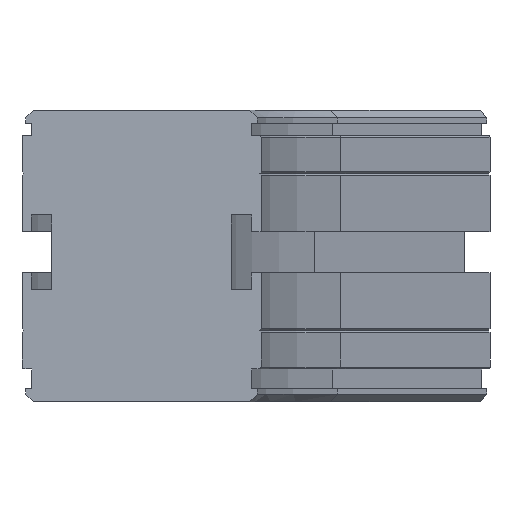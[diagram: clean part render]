
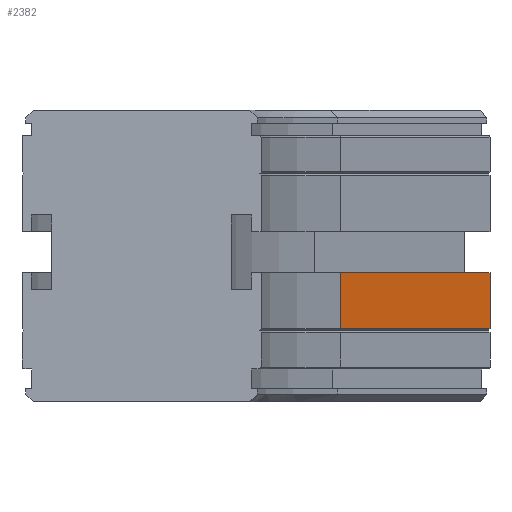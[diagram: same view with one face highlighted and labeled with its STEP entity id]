
A CAD part, left-side view. The second image highlights one B-rep face of the part: STEP entity #2382.
In plain terms, the highlighted planar face has unit normal (-0.5, -0.866, 0).
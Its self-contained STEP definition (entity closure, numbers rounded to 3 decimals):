
#2326=CARTESIAN_POINT('',(228.782,-93.302,-58.5));
#2327=VERTEX_POINT('',#2326);
#2334=CARTESIAN_POINT('',(159.5,-53.302,-58.5));
#2335=VERTEX_POINT('',#2334);
#2336=CARTESIAN_POINT('',(159.5,-53.302,-58.5));
#2337=DIRECTION('',(0.866,-0.5,0.0));
#2338=VECTOR('',#2337,80.);
#2339=LINE('',#2336,#2338);
#2340=EDGE_CURVE('',#2335,#2327,#2339,.T.);
#2352=CARTESIAN_POINT('',(159.5,-53.302,-58.5));
#2353=DIRECTION('',(-0.5,-0.866,0.));
#2354=DIRECTION('',(0.0,0.0,-1.0));
#2355=AXIS2_PLACEMENT_3D('',#2352,#2353,#2354);
#2356=PLANE('',#2355);
#2357=CARTESIAN_POINT('',(228.782,-93.302,-43.5));
#2358=VERTEX_POINT('',#2357);
#2359=CARTESIAN_POINT('',(228.782,-93.302,-58.5));
#2360=DIRECTION('',(0.0,0.0,1.0));
#2361=VECTOR('',#2360,15.);
#2362=LINE('',#2359,#2361);
#2363=EDGE_CURVE('',#2327,#2358,#2362,.T.);
#2364=ORIENTED_EDGE('',*,*,#2363,.T.);
#2365=CARTESIAN_POINT('',(159.5,-53.302,-43.5));
#2366=VERTEX_POINT('',#2365);
#2367=CARTESIAN_POINT('',(159.5,-53.302,-43.5));
#2368=DIRECTION('',(0.866,-0.5,0.0));
#2369=VECTOR('',#2368,80.);
#2370=LINE('',#2367,#2369);
#2371=EDGE_CURVE('',#2366,#2358,#2370,.T.);
#2372=ORIENTED_EDGE('',*,*,#2371,.F.);
#2373=CARTESIAN_POINT('',(159.5,-53.302,-58.5));
#2374=DIRECTION('',(0.0,0.0,1.0));
#2375=VECTOR('',#2374,15.);
#2376=LINE('',#2373,#2375);
#2377=EDGE_CURVE('',#2335,#2366,#2376,.T.);
#2378=ORIENTED_EDGE('',*,*,#2377,.F.);
#2379=ORIENTED_EDGE('',*,*,#2340,.T.);
#2380=EDGE_LOOP('',(#2364,#2372,#2378,#2379));
#2381=FACE_OUTER_BOUND('',#2380,.T.);
#2382=ADVANCED_FACE('',(#2381),#2356,.T.);
